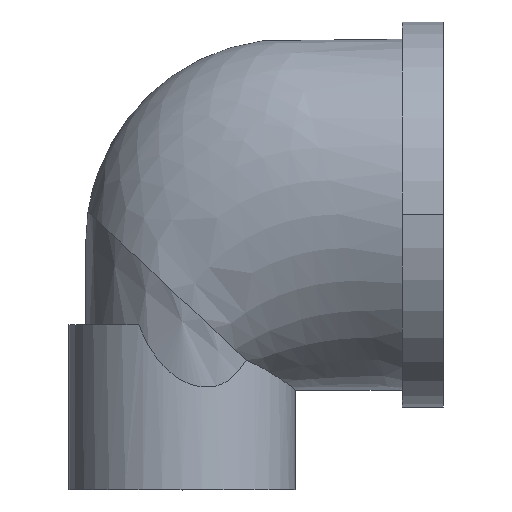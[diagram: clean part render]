
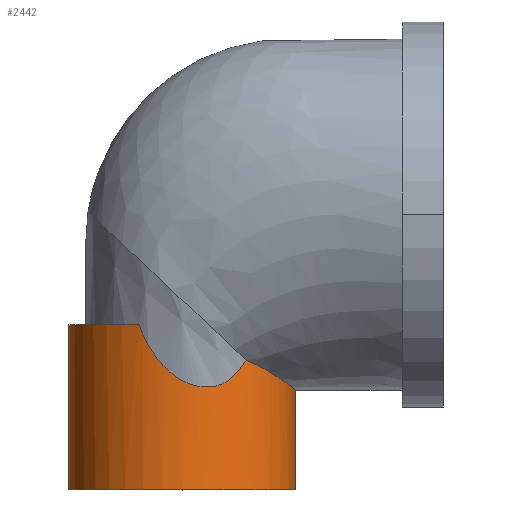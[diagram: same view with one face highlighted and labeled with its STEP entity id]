
A CAD part, top view. The second image highlights one B-rep face of the part: STEP entity #2442.
In plain terms, the highlighted cylindrical face has radius 8.25 mm (diameter 16.5 mm), a partial arc.
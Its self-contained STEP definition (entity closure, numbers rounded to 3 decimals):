
#111 = ORIENTED_EDGE ( 'NONE', *, *, #2126, .T. ) ;
#113 = CARTESIAN_POINT ( 'NONE',  ( 4.411, -10.93, 6.973 ) ) ;
#130 = EDGE_CURVE ( 'NONE', #2958, #1876, #1915, .T. ) ;
#141 = CARTESIAN_POINT ( 'NONE',  ( -2.798, -8.842, 7.764 ) ) ;
#150 = CARTESIAN_POINT ( 'NONE',  ( 5.21, -10.816, 6.431 ) ) ;
#153 = CARTESIAN_POINT ( 'NONE',  ( -1.286, -11.094, 8.151 ) ) ;
#163 = CARTESIAN_POINT ( 'NONE',  ( 6.348, -11.448, 5.28 ) ) ;
#166 = CARTESIAN_POINT ( 'NONE',  ( 3.956, -11.539, 7.24 ) ) ;
#173 = DIRECTION ( 'NONE',  ( -1., 0., 0. ) ) ;
#184 = CARTESIAN_POINT ( 'NONE',  ( 4.666, -10.585, 6.804 ) ) ;
#191 = CARTESIAN_POINT ( 'NONE',  ( 7.907, -12.49, 2.379 ) ) ;
#359 = CARTESIAN_POINT ( 'NONE',  ( -1.123, -11.257, 8.175 ) ) ;
#387 = CARTESIAN_POINT ( 'NONE',  ( -2.983, -8.425, 7.694 ) ) ;
#411 = CARTESIAN_POINT ( 'NONE',  ( 3.735, -11.778, 7.358 ) ) ;
#418 = ORIENTED_EDGE ( 'NONE', *, *, #130, .F. ) ;
#440 = CARTESIAN_POINT ( 'NONE',  ( 5.7, -11.074, 5.999 ) ) ;
#541 = EDGE_CURVE ( 'NONE', #2128, #2869, #3095, .T. ) ;
#603 = CARTESIAN_POINT ( 'NONE',  ( 4.026, -11.456, 7.202 ) ) ;
#608 = EDGE_CURVE ( 'NONE', #2958, #2448, #1470, .T. ) ;
#619 = CARTESIAN_POINT ( 'NONE',  ( -2.14, -10.033, 7.972 ) ) ;
#630 = CARTESIAN_POINT ( 'NONE',  ( 1.965, -12.55, 8.016 ) ) ;
#670 = CARTESIAN_POINT ( 'NONE',  ( 8.228, -12.732, 0.698 ) ) ;
#684 = CARTESIAN_POINT ( 'NONE',  ( 0., 0., 0. ) ) ;
#688 = CARTESIAN_POINT ( 'NONE',  ( 0., -20., 0. ) ) ;
#700 = B_SPLINE_CURVE_WITH_KNOTS ( 'NONE', 3,
 ( #1066, #2909, #113, #1155, #2404, #603, #166, #411, #2178, #2716, #849, #1906, #2439, #630, #1382, #1398, #1929, #2671, #2694, #1661, #2955, #864, #1645, #359, #153, #1921, #2191, #619, #910, #141, #387, #880 ),
 .UNSPECIFIED., .F., .F.,
 ( 4, 2, 2, 2, 2, 2, 2, 2, 2, 2, 2, 2, 2, 2, 2, 4 ),
 ( 0., 0.001, 0.001, 0.001, 0.002, 0.003, 0.003, 0.004, 0.005, 0.006, 0.006, 0.007, 0.008, 0.008, 0.01, 0.011 ),
 .UNSPECIFIED. ) ;
#849 = CARTESIAN_POINT ( 'NONE',  ( 3.027, -12.278, 7.678 ) ) ;
#861 = DIRECTION ( 'NONE',  ( 0., 1., 0. ) ) ;
#864 = CARTESIAN_POINT ( 'NONE',  ( -0.6, -11.7, 8.23 ) ) ;
#874 = CIRCLE ( 'NONE', #2359, 8.25 ) ;
#880 = CARTESIAN_POINT ( 'NONE',  ( -3.148, -8., 7.626 ) ) ;
#910 = CARTESIAN_POINT ( 'NONE',  ( -2.376, -9.647, 7.904 ) ) ;
#932 = CARTESIAN_POINT ( 'NONE',  ( 7.415, -12.139, 3.631 ) ) ;
#955 = AXIS2_PLACEMENT_3D ( 'NONE', #688, #2501, #173 ) ;
#1030 = CARTESIAN_POINT ( 'NONE',  ( 4.666, -10.585, 6.804 ) ) ;
#1056 = ORIENTED_EDGE ( 'NONE', *, *, #541, .T. ) ;
#1066 = CARTESIAN_POINT ( 'NONE',  ( 4.666, -10.585, 6.804 ) ) ;
#1084 = VECTOR ( 'NONE', #2006, 1000. ) ;
#1138 = CARTESIAN_POINT ( 'NONE',  ( 8.25, -12.75, 0. ) ) ;
#1155 = CARTESIAN_POINT ( 'NONE',  ( 4.221, -11.194, 7.089 ) ) ;
#1218 = CARTESIAN_POINT ( 'NONE',  ( 8.25, -12.75, 0.349 ) ) ;
#1251 = CARTESIAN_POINT ( 'NONE',  ( -8.25, 0., 0. ) ) ;
#1382 = CARTESIAN_POINT ( 'NONE',  ( 1.737, -12.554, 8.068 ) ) ;
#1398 = CARTESIAN_POINT ( 'NONE',  ( 1.286, -12.516, 8.152 ) ) ;
#1470 = CIRCLE ( 'NONE', #955, 8.25 ) ;
#1475 = DIRECTION ( 'NONE',  ( 0., 1., 0. ) ) ;
#1645 = CARTESIAN_POINT ( 'NONE',  ( -0.78, -11.559, 8.215 ) ) ;
#1661 = CARTESIAN_POINT ( 'NONE',  ( -0.018, -12.073, 8.253 ) ) ;
#1719 = CARTESIAN_POINT ( 'NONE',  ( 8.077, -12.617, 1.717 ) ) ;
#1876 = VERTEX_POINT ( 'NONE', #2184 ) ;
#1906 = CARTESIAN_POINT ( 'NONE',  ( 2.618, -12.439, 7.827 ) ) ;
#1915 = LINE ( 'NONE', #1251, #1084 ) ;
#1921 = CARTESIAN_POINT ( 'NONE',  ( -1.593, -10.754, 8.096 ) ) ;
#1929 = CARTESIAN_POINT ( 'NONE',  ( 1.059, -12.474, 8.185 ) ) ;
#1967 = ORIENTED_EDGE ( 'NONE', *, *, #2438, .F. ) ;
#1983 = VECTOR ( 'NONE', #861, 1000. ) ;
#1988 = CARTESIAN_POINT ( 'NONE',  ( 7.555, -12.237, 3.33 ) ) ;
#2006 = DIRECTION ( 'NONE',  ( 0., 1., 0. ) ) ;
#2021 = CARTESIAN_POINT ( 'NONE',  ( 8.25, -20., 0. ) ) ;
#2126 = EDGE_CURVE ( 'NONE', #2448, #2128, #2662, .T. ) ;
#2128 = VERTEX_POINT ( 'NONE', #2159 ) ;
#2159 = CARTESIAN_POINT ( 'NONE',  ( 8.25, -12.75, 0. ) ) ;
#2178 = CARTESIAN_POINT ( 'NONE',  ( 3.571, -11.924, 7.44 ) ) ;
#2184 = CARTESIAN_POINT ( 'NONE',  ( -8.25, -8., 0. ) ) ;
#2187 = CARTESIAN_POINT ( 'NONE',  ( 6.926, -11.81, 4.494 ) ) ;
#2191 = CARTESIAN_POINT ( 'NONE',  ( -1.736, -10.578, 8.066 ) ) ;
#2197 = ORIENTED_EDGE ( 'NONE', *, *, #2224, .T. ) ;
#2224 = EDGE_CURVE ( 'NONE', #2869, #2773, #700, .T. ) ;
#2236 = AXIS2_PLACEMENT_3D ( 'NONE', #684, #2772, #2763 ) ;
#2248 = FACE_OUTER_BOUND ( 'NONE', #2957, .T. ) ;
#2282 = CARTESIAN_POINT ( 'NONE',  ( -8.25, -20., 0. ) ) ;
#2359 = AXIS2_PLACEMENT_3D ( 'NONE', #2528, #1475, #3283 ) ;
#2371 = ORIENTED_EDGE ( 'NONE', *, *, #608, .T. ) ;
#2404 = CARTESIAN_POINT ( 'NONE',  ( 4.158, -11.284, 7.126 ) ) ;
#2417 = CARTESIAN_POINT ( 'NONE',  ( 8.25, 0., 0. ) ) ;
#2438 = EDGE_CURVE ( 'NONE', #1876, #2773, #874, .T. ) ;
#2439 = CARTESIAN_POINT ( 'NONE',  ( 2.406, -12.492, 7.895 ) ) ;
#2442 = ADVANCED_FACE ( 'NONE', ( #2248 ), #3251, .T. ) ;
#2448 = VERTEX_POINT ( 'NONE', #2021 ) ;
#2478 = CARTESIAN_POINT ( 'NONE',  ( 7.801, -12.413, 2.706 ) ) ;
#2501 = DIRECTION ( 'NONE',  ( 0., 1., 0. ) ) ;
#2528 = CARTESIAN_POINT ( 'NONE',  ( 0., -8., 0. ) ) ;
#2662 = LINE ( 'NONE', #2417, #1983 ) ;
#2671 = CARTESIAN_POINT ( 'NONE',  ( 0.615, -12.351, 8.23 ) ) ;
#2694 = CARTESIAN_POINT ( 'NONE',  ( 0.4, -12.27, 8.243 ) ) ;
#2716 = CARTESIAN_POINT ( 'NONE',  ( 3.219, -12.173, 7.599 ) ) ;
#2724 = CARTESIAN_POINT ( 'NONE',  ( 7.101, -11.926, 4.213 ) ) ;
#2763 = DIRECTION ( 'NONE',  ( -1., 0., 0. ) ) ;
#2772 = DIRECTION ( 'NONE',  ( 0., 1., 0. ) ) ;
#2773 = VERTEX_POINT ( 'NONE', #2999 ) ;
#2869 = VERTEX_POINT ( 'NONE', #1030 ) ;
#2909 = CARTESIAN_POINT ( 'NONE',  ( 4.539, -10.757, 6.891 ) ) ;
#2955 = CARTESIAN_POINT ( 'NONE',  ( -0.22, -11.957, 8.249 ) ) ;
#2957 = EDGE_LOOP ( 'NONE', ( #2371, #111, #1056, #2197, #1967, #418 ) ) ;
#2958 = VERTEX_POINT ( 'NONE', #2282 ) ;
#2962 = CARTESIAN_POINT ( 'NONE',  ( 8.141, -12.666, 1.381 ) ) ;
#2999 = CARTESIAN_POINT ( 'NONE',  ( -3.148, -8., 7.626 ) ) ;
#3095 = B_SPLINE_CURVE_WITH_KNOTS ( 'NONE', 3,
 ( #1138, #1218, #670, #2962, #1719, #191, #2478, #1988, #932, #2724, #2187, #3218, #163, #440, #150, #184 ),
 .UNSPECIFIED., .F., .F.,
 ( 4, 2, 2, 2, 2, 2, 2, 4 ),
 ( 0.008, 0.009, 0.01, 0.011, 0.012, 0.013, 0.014, 0.017 ),
 .UNSPECIFIED. ) ;
#3218 = CARTESIAN_POINT ( 'NONE',  ( 6.55, -11.571, 5.027 ) ) ;
#3251 = CYLINDRICAL_SURFACE ( 'NONE', #2236, 8.25 ) ;
#3283 = DIRECTION ( 'NONE',  ( -1., 0., 0. ) ) ;
